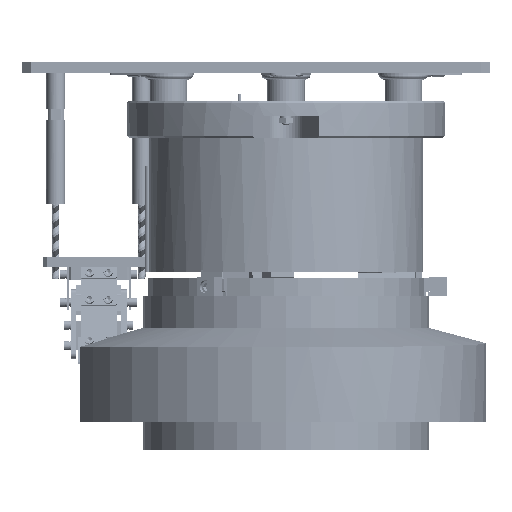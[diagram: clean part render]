
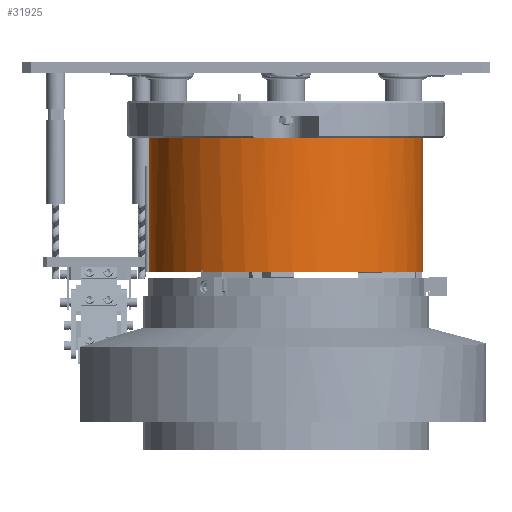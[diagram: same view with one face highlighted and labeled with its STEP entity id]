
A CAD part, left-side view. The second image highlights one B-rep face of the part: STEP entity #31925.
In plain terms, the highlighted cylindrical face has radius 146.7 mm (diameter 293.4 mm), a partial arc.
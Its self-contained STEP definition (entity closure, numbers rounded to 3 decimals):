
#5118=CARTESIAN_POINT('',(0.,183.,0.));
#5119=DIRECTION('',(0.,1.,0.));
#5120=DIRECTION('',(-0.02,0.,-1.));
#5121=AXIS2_PLACEMENT_3D('',#5118,#5119,#5120);
#5157=CARTESIAN_POINT('',(0.,183.,0.));
#5158=DIRECTION('',(0.,1.,0.));
#5159=DIRECTION('',(-0.141,0.,-0.99));
#5160=AXIS2_PLACEMENT_3D('',#5157,#5158,#5159);
#5226=CARTESIAN_POINT('',(0.,183.,0.));
#5227=DIRECTION('',(0.,1.,0.));
#5228=DIRECTION('',(-0.787,0.,0.617));
#5229=AXIS2_PLACEMENT_3D('',#5226,#5227,#5228);
#5578=DIRECTION('',(0.,-1.,0.));
#5579=VECTOR('',#5578,2.067);
#5580=CARTESIAN_POINT('',(-116.644,183.,88.967));
#5581=LINE('',#5580,#5579);
#5582=CARTESIAN_POINT('',(0.,180.933,
0.));
#5583=DIRECTION('',(0.,-1.,0.));
#5584=DIRECTION('',(-0.787,0.,0.617));
#5585=AXIS2_PLACEMENT_3D('',#5582,#5583,#5584);
#5587=DIRECTION('',(0.,-1.,0.));
#5588=VECTOR('',#5587,2.067);
#5589=CARTESIAN_POINT('',(-115.409,183.,90.563));
#5590=LINE('',#5589,#5588);
#5591=DIRECTION('',(0.,-1.,0.));
#5592=VECTOR('',#5591,143.704);
#5593=CARTESIAN_POINT('',(-4.,183.,146.645));
#5594=LINE('',#5593,#5592);
#5595=DIRECTION('',(0.,1.,0.));
#5596=VECTOR('',#5595,143.704);
#5597=CARTESIAN_POINT('',(-3.,39.296,-146.669));
#5598=LINE('',#5597,#5596);
#5599=DIRECTION('',(0.,-1.,0.));
#5600=VECTOR('',#5599,2.067);
#5601=CARTESIAN_POINT('',(-18.725,183.,-145.5));
#5602=LINE('',#5601,#5600);
#5603=CARTESIAN_POINT('',(0.,180.933,
0.));
#5604=DIRECTION('',(0.,-1.,0.));
#5605=DIRECTION('',(-0.141,0.,-0.99));
#5606=AXIS2_PLACEMENT_3D('',#5603,#5604,#5605);
#5608=DIRECTION('',(0.,-1.,0.));
#5609=VECTOR('',#5608,2.067);
#5610=CARTESIAN_POINT('',(-20.725,183.,-145.229));
#5611=LINE('',#5610,#5609);
#5636=CARTESIAN_POINT('',(-4.,39.296,146.645));
#5680=CARTESIAN_POINT('',(0.,39.296,
0.));
#5681=DIRECTION('',(0.,-1.,0.));
#5682=DIRECTION('',(-0.027,0.,1.));
#5683=AXIS2_PLACEMENT_3D('',#5680,#5681,#5682);
#5693=DIRECTION('',(0.,-1.,0.));
#5694=VECTOR('',#5693,0.296);
#5695=CARTESIAN_POINT('',(-144.882,39.296,23.026));
#5696=LINE('',#5695,#5694);
#5697=CARTESIAN_POINT('',(0.,39.,0.));
#5698=DIRECTION('',(0.,1.,0.));
#5699=DIRECTION('',(-0.988,0.,-0.157));
#5700=AXIS2_PLACEMENT_3D('',#5697,#5698,#5699);
#5730=DIRECTION('',(0.,-1.,0.));
#5731=VECTOR('',#5730,0.296);
#5732=CARTESIAN_POINT('',(-144.882,39.296,
-23.026));
#5733=LINE('',#5732,#5731);
#5747=CARTESIAN_POINT('',(-3.,39.296,-146.669));
#5749=CARTESIAN_POINT('',(0.,39.296,
0.));
#5750=DIRECTION('',(0.,-1.,0.));
#5751=DIRECTION('',(-0.988,0.,-0.157));
#5752=AXIS2_PLACEMENT_3D('',#5749,#5750,#5751);
#24428=CARTESIAN_POINT('',(-144.882,39.296,
-23.026));
#24429=CARTESIAN_POINT('',(-144.882,39.,-23.026));
#24430=VERTEX_POINT('',#24428);
#24431=VERTEX_POINT('',#24429);
#24434=VERTEX_POINT('',#5747);
#24435=VERTEX_POINT('',#5636);
#24439=CARTESIAN_POINT('',(-144.882,39.296,
23.026));
#24440=VERTEX_POINT('',#24439);
#24443=CARTESIAN_POINT('',(-144.882,39.,23.026));
#24444=VERTEX_POINT('',#24443);
#24445=CARTESIAN_POINT('',(-4.,183.,146.645));
#24446=VERTEX_POINT('',#24445);
#24447=CARTESIAN_POINT('',(-3.,183.,-146.669));
#24448=VERTEX_POINT('',#24447);
#24523=CARTESIAN_POINT('',(-18.725,183.,-145.5));
#24525=VERTEX_POINT('',#24523);
#24529=CARTESIAN_POINT('',(-20.725,183.,-145.229));
#24531=VERTEX_POINT('',#24529);
#24535=CARTESIAN_POINT('',(-18.725,180.933,-145.5));
#24536=VERTEX_POINT('',#24535);
#24537=CARTESIAN_POINT('',(-20.725,180.933,
-145.229));
#24538=VERTEX_POINT('',#24537);
#24686=CARTESIAN_POINT('',(-116.644,183.,88.967));
#24687=VERTEX_POINT('',#24686);
#24688=CARTESIAN_POINT('',(-115.409,183.,90.563));
#24690=VERTEX_POINT('',#24688);
#24694=CARTESIAN_POINT('',(-116.644,180.933,
88.967));
#24695=VERTEX_POINT('',#24694);
#24696=CARTESIAN_POINT('',(-115.409,180.933,
90.563));
#24697=VERTEX_POINT('',#24696);
#31895=CARTESIAN_POINT('',(0.,111.,0.));
#31896=DIRECTION('',(0.,-1.,0.));
#31897=DIRECTION('',(0.02,0.,-1.));
#31898=AXIS2_PLACEMENT_3D('',#31895,#31896,#31897);
#31899=CYLINDRICAL_SURFACE('',#31898,146.7);
#31900=ORIENTED_EDGE('',*,*,#31479,.T.);
#31901=ORIENTED_EDGE('',*,*,#31720,.F.);
#31902=ORIENTED_EDGE('',*,*,#31495,.F.);
#31903=ORIENTED_EDGE('',*,*,#31313,.T.);
#31905=ORIENTED_EDGE('',*,*,#31904,.T.);
#31907=ORIENTED_EDGE('',*,*,#31906,.T.);
#31909=ORIENTED_EDGE('',*,*,#31908,.T.);
#31911=ORIENTED_EDGE('',*,*,#31910,.F.);
#31913=ORIENTED_EDGE('',*,*,#31912,.F.);
#31915=ORIENTED_EDGE('',*,*,#31914,.T.);
#31917=ORIENTED_EDGE('',*,*,#31916,.T.);
#31918=ORIENTED_EDGE('',*,*,#31239,.T.);
#31919=ORIENTED_EDGE('',*,*,#30739,.T.);
#31920=ORIENTED_EDGE('',*,*,#30996,.F.);
#31921=ORIENTED_EDGE('',*,*,#30765,.F.);
#31922=ORIENTED_EDGE('',*,*,#31273,.T.);
#31923=EDGE_LOOP('',(#31900,#31901,#31902,#31903,#31905,#31907,#31909,#31911,
#31913,#31915,#31917,#31918,#31919,#31920,#31921,#31922));
#31924=FACE_OUTER_BOUND('',#31923,.F.);
#5122=CIRCLE('',#5121,146.7);
#5161=CIRCLE('',#5160,146.7);
#5230=CIRCLE('',#5229,146.7);
#5586=CIRCLE('',#5585,146.7);
#5607=CIRCLE('',#5606,146.7);
#5684=CIRCLE('',#5683,146.7);
#5701=CIRCLE('',#5700,146.7);
#5753=CIRCLE('',#5752,146.7);
#30739=EDGE_CURVE('',#24525,#24536,#5602,.T.);
#30765=EDGE_CURVE('',#24531,#24538,#5611,.T.);
#30996=EDGE_CURVE('',#24538,#24536,#5607,.T.);
#31239=EDGE_CURVE('',#24448,#24525,#5122,.T.);
#31273=EDGE_CURVE('',#24531,#24687,#5161,.T.);
#31313=EDGE_CURVE('',#24690,#24446,#5230,.T.);
#31479=EDGE_CURVE('',#24687,#24695,#5581,.T.);
#31495=EDGE_CURVE('',#24690,#24697,#5590,.T.);
#31720=EDGE_CURVE('',#24697,#24695,#5586,.T.);
#31904=EDGE_CURVE('',#24446,#24435,#5594,.T.);
#31906=EDGE_CURVE('',#24435,#24440,#5684,.T.);
#31908=EDGE_CURVE('',#24440,#24444,#5696,.T.);
#31910=EDGE_CURVE('',#24431,#24444,#5701,.T.);
#31912=EDGE_CURVE('',#24430,#24431,#5733,.T.);
#31914=EDGE_CURVE('',#24430,#24434,#5753,.T.);
#31916=EDGE_CURVE('',#24434,#24448,#5598,.T.);
#31925=ADVANCED_FACE('',(#31924),#31899,.T.);
